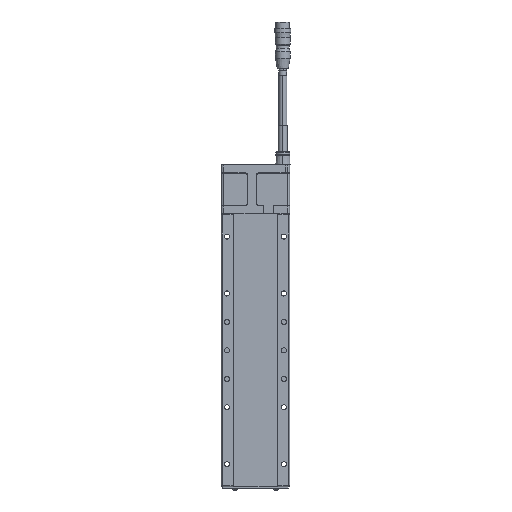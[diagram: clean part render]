
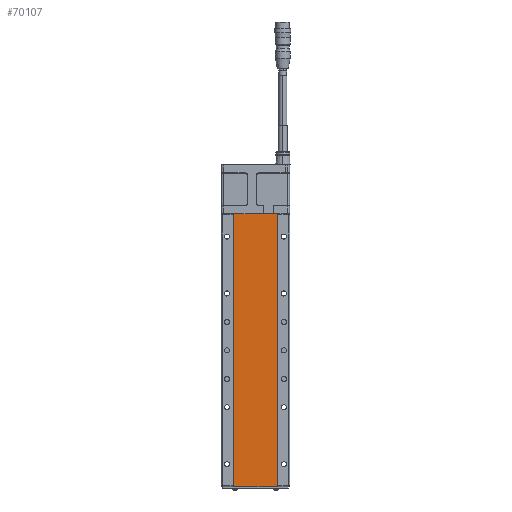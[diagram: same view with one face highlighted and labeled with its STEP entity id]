
A CAD part, front view. The second image highlights one B-rep face of the part: STEP entity #70107.
In plain terms, the highlighted planar face has unit normal (0, -1, 0).
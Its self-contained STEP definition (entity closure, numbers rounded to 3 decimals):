
#6171 = CARTESIAN_POINT ( 'NONE',  ( 19.3, 0.8, 0.3 ) ) ;
#7339 = VERTEX_POINT ( 'NONE', #108917 ) ;
#7342 = VERTEX_POINT ( 'NONE', #90266 ) ;
#8145 = VERTEX_POINT ( 'NONE', #79239 ) ;
#12369 = DIRECTION ( 'NONE',  ( -1., 0., 0. ) ) ;
#17782 = VECTOR ( 'NONE', #111935, 1000. ) ;
#20556 = CARTESIAN_POINT ( 'NONE',  ( -19.3, 0.8, 239.9 ) ) ;
#22628 = VECTOR ( 'NONE', #97754, 1000. ) ;
#23138 = LINE ( 'NONE', #6171, #104074 ) ;
#24726 = VERTEX_POINT ( 'NONE', #37150 ) ;
#27508 = EDGE_CURVE ( 'NONE', #7339, #7342, #76335, .T. ) ;
#30494 = PLANE ( 'NONE',  #90031 ) ;
#31823 = ORIENTED_EDGE ( 'NONE', *, *, #55398, .T. ) ;
#35542 = CARTESIAN_POINT ( 'NONE',  ( -19.3, 0.8, 239.9 ) ) ;
#36013 = EDGE_CURVE ( 'NONE', #8145, #24726, #115575, .T. ) ;
#37150 = CARTESIAN_POINT ( 'NONE',  ( -19.3, 0.8, 239.9 ) ) ;
#40629 = EDGE_CURVE ( 'NONE', #24726, #7339, #70933, .T. ) ;
#55398 = EDGE_CURVE ( 'NONE', #7342, #8145, #23138, .T. ) ;
#59378 = CARTESIAN_POINT ( 'NONE',  ( -19.3, 0.8, 0.3 ) ) ;
#60512 = DIRECTION ( 'NONE',  ( 0., 0., 1. ) ) ;
#70107 = ADVANCED_FACE ( 'NONE', ( #74918 ), #30494, .F. ) ;
#70229 = ORIENTED_EDGE ( 'NONE', *, *, #27508, .T. ) ;
#70536 = VECTOR ( 'NONE', #80567, 1000. ) ;
#70933 = LINE ( 'NONE', #106502, #22628 ) ;
#73173 = DIRECTION ( 'NONE',  ( 0., 1., 0. ) ) ;
#73791 = EDGE_LOOP ( 'NONE', ( #99043, #70229, #31823, #96353 ) ) ;
#74918 = FACE_OUTER_BOUND ( 'NONE', #73791, .T. ) ;
#76335 = LINE ( 'NONE', #59378, #17782 ) ;
#79239 = CARTESIAN_POINT ( 'NONE',  ( 19.3, 0.8, 239.9 ) ) ;
#80567 = DIRECTION ( 'NONE',  ( -1., 0., 0. ) ) ;
#90031 = AXIS2_PLACEMENT_3D ( 'NONE', #20556, #73173, #12369 ) ;
#90266 = CARTESIAN_POINT ( 'NONE',  ( 19.3, 0.8, 0.3 ) ) ;
#96353 = ORIENTED_EDGE ( 'NONE', *, *, #36013, .T. ) ;
#97754 = DIRECTION ( 'NONE',  ( 0., 0., -1. ) ) ;
#99043 = ORIENTED_EDGE ( 'NONE', *, *, #40629, .T. ) ;
#104074 = VECTOR ( 'NONE', #60512, 1000. ) ;
#106502 = CARTESIAN_POINT ( 'NONE',  ( -19.3, 0.8, 0.3 ) ) ;
#108917 = CARTESIAN_POINT ( 'NONE',  ( -19.3, 0.8, 0.3 ) ) ;
#111935 = DIRECTION ( 'NONE',  ( 1., 0., 0. ) ) ;
#115575 = LINE ( 'NONE', #35542, #70536 ) ;
